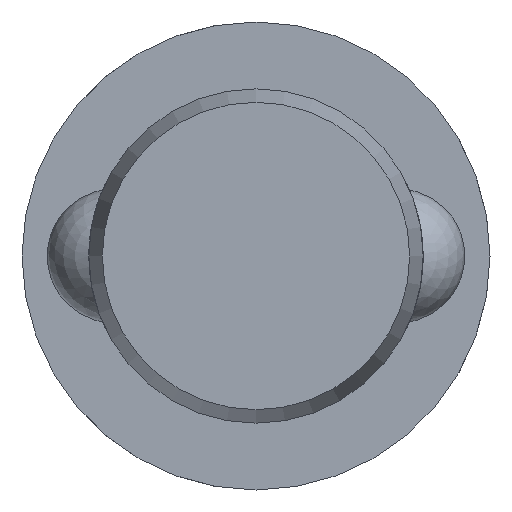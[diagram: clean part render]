
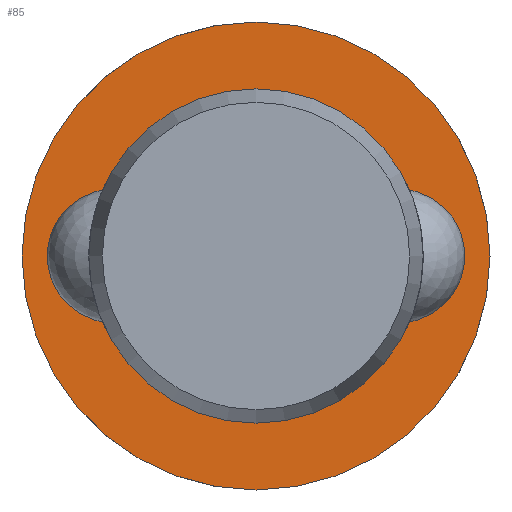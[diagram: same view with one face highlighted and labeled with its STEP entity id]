
A CAD part, left-side view. The second image highlights one B-rep face of the part: STEP entity #85.
In plain terms, the highlighted planar face has unit normal (-1, 0, 0).
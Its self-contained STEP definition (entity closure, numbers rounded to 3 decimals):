
#85 = ADVANCED_FACE( '', ( #131, #132 ), #133, .F. );
#131 = FACE_OUTER_BOUND( '', #204, .T. );
#132 = FACE_BOUND( '', #205, .T. );
#133 = PLANE( '', #206 );
#204 = EDGE_LOOP( '', ( #322 ) );
#205 = EDGE_LOOP( '', ( #323 ) );
#206 = AXIS2_PLACEMENT_3D( '', #324, #325, #326 );
#322 = ORIENTED_EDGE( '', *, *, #470, .F. );
#323 = ORIENTED_EDGE( '', *, *, #467, .T. );
#324 = CARTESIAN_POINT( '', ( 90.5, 10., 0. ) );
#325 = DIRECTION( '', ( 1., 0., 0. ) );
#326 = DIRECTION( '', ( 0., 1., 0. ) );
#467 = EDGE_CURVE( '', #541, #541, #542, .T. );
#470 = EDGE_CURVE( '', #547, #547, #548, .T. );
#541 = VERTEX_POINT( '', #777 );
#542 = CIRCLE( '', #778, 10. );
#547 = VERTEX_POINT( '', #909 );
#548 = CIRCLE( '', #910, 14. );
#777 = CARTESIAN_POINT( '', ( 90.5, 10., 0. ) );
#778 = AXIS2_PLACEMENT_3D( '', #989, #990, #991 );
#909 = CARTESIAN_POINT( '', ( 90.5, 14., 0. ) );
#910 = AXIS2_PLACEMENT_3D( '', #992, #993, #994 );
#989 = CARTESIAN_POINT( '', ( 90.5, 0., 0. ) );
#990 = DIRECTION( '', ( 1., 0., 0. ) );
#991 = DIRECTION( '', ( 0., 1., 0. ) );
#992 = CARTESIAN_POINT( '', ( 90.5, 0., 0. ) );
#993 = DIRECTION( '', ( 1., 0., 0. ) );
#994 = DIRECTION( '', ( 0., 1., 0. ) );
